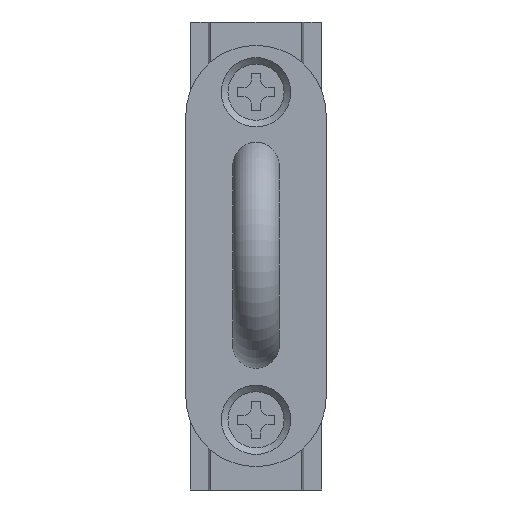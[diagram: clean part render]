
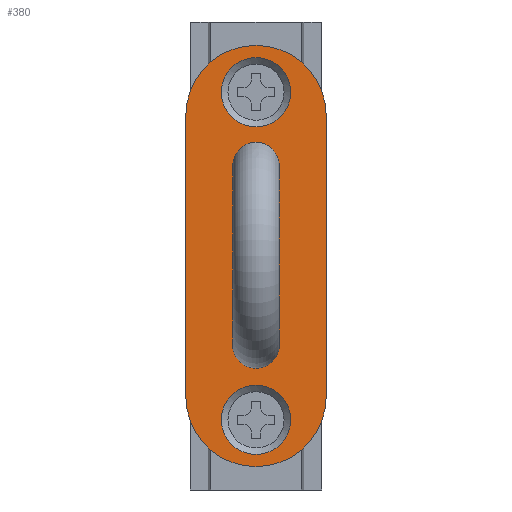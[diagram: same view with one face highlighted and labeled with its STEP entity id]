
A CAD part, front view. The second image highlights one B-rep face of the part: STEP entity #380.
In plain terms, the highlighted planar face has unit normal (0, -1, 0) as drawn and (0, 0, -1) by its records, which use the part's own axes.
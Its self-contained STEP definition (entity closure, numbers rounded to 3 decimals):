
#380=ADVANCED_FACE('',(#696,#697,#698,#699),#700,.F.);
#696=FACE_BOUND('',#976,.T.);
#697=FACE_BOUND('',#977,.T.);
#698=FACE_BOUND('',#978,.T.);
#699=FACE_OUTER_BOUND('',#979,.T.);
#700=PLANE('',#980);
#976=EDGE_LOOP('',(#1663));
#977=EDGE_LOOP('',(#1664));
#978=EDGE_LOOP('',(#1665));
#979=EDGE_LOOP('',(#1666,#1667,#1668,#1669));
#980=AXIS2_PLACEMENT_3D('',#1670,#1671,#1672);
#1663=ORIENTED_EDGE('',*,*,#1840,.T.);
#1664=ORIENTED_EDGE('',*,*,#1946,.F.);
#1665=ORIENTED_EDGE('',*,*,#1735,.F.);
#1666=ORIENTED_EDGE('',*,*,#1831,.F.);
#1667=ORIENTED_EDGE('',*,*,#1887,.F.);
#1668=ORIENTED_EDGE('',*,*,#1952,.F.);
#1669=ORIENTED_EDGE('',*,*,#1910,.F.);
#1670=CARTESIAN_POINT('',(7.5,7.5,18.0));
#1671=DIRECTION('',(0.0,0.0,1.0));
#1672=DIRECTION('',(1.0,0.0,0.0));
#1735=EDGE_CURVE('',#2038,#2038,#2039,.T.);
#1831=EDGE_CURVE('',#2198,#2199,#2200,.T.);
#1840=EDGE_CURVE('',#2210,#2210,#2211,.T.);
#1887=EDGE_CURVE('',#2276,#2198,#2277,.T.);
#1910=EDGE_CURVE('',#2199,#2304,#2305,.T.);
#1946=EDGE_CURVE('',#2346,#2346,#2347,.T.);
#1952=EDGE_CURVE('',#2304,#2276,#2353,.T.);
#2038=VERTEX_POINT('',#2467);
#2039=CIRCLE('',#2468,3.7);
#2198=VERTEX_POINT('',#2687);
#2199=VERTEX_POINT('',#2688);
#2200=CIRCLE('',#2689,7.5);
#2210=VERTEX_POINT('',#2703);
#2211=CIRCLE('',#2704,2.5);
#2276=VERTEX_POINT('',#2854);
#2277=LINE('',#2855,#2856);
#2304=VERTEX_POINT('',#2895);
#2305=LINE('',#2896,#2897);
#2346=VERTEX_POINT('',#2953);
#2347=CIRCLE('',#2954,3.7);
#2353=CIRCLE('',#2961,7.5);
#2467=CARTESIAN_POINT('',(5.0,3.8,18.));
#2468=AXIS2_PLACEMENT_3D('',#3020,#3021,#3022);
#2687=CARTESIAN_POINT('',(7.5,15.0,18.0));
#2688=CARTESIAN_POINT('',(7.5,0.,18.0));
#2689=AXIS2_PLACEMENT_3D('',#3137,#3138,#3139);
#2703=CARTESIAN_POINT('',(34.491,7.5,18.0));
#2704=AXIS2_PLACEMENT_3D('',#3147,#3148,#3149);
#2854=CARTESIAN_POINT('',(37.5,15.0,18.0));
#2855=CARTESIAN_POINT('',(37.5,15.0,18.0));
#2856=VECTOR('',#3182,1.0);
#2895=CARTESIAN_POINT('',(37.5,0.,18.0));
#2896=CARTESIAN_POINT('',(7.5,0.,18.0));
#2897=VECTOR('',#3198,1.0);
#2953=CARTESIAN_POINT('',(40.0,3.8,18.));
#2954=AXIS2_PLACEMENT_3D('',#3223,#3224,#3225);
#2961=AXIS2_PLACEMENT_3D('',#3227,#3228,#3229);
#3020=CARTESIAN_POINT('',(5.0,7.5,18.));
#3021=DIRECTION('',(0.0,0.,-1.0));
#3022=DIRECTION('',(0.0,-1.0,0.));
#3137=CARTESIAN_POINT('',(7.5,7.5,18.0));
#3138=DIRECTION('',(0.0,0.0,1.0));
#3139=DIRECTION('',(1.0,0.0,0.0));
#3147=CARTESIAN_POINT('',(31.991,7.5,18.0));
#3148=DIRECTION('',(0.0,0.0,1.0));
#3149=DIRECTION('',(1.0,0.0,0.0));
#3182=DIRECTION('',(-1.0,0.0,0.0));
#3198=DIRECTION('',(1.0,0.0,0.0));
#3223=CARTESIAN_POINT('',(40.0,7.5,18.));
#3224=DIRECTION('',(0.0,0.,-1.0));
#3225=DIRECTION('',(0.0,-1.0,0.));
#3227=CARTESIAN_POINT('',(37.5,7.5,18.0));
#3228=DIRECTION('',(0.0,0.0,1.0));
#3229=DIRECTION('',(1.0,0.0,0.0));
